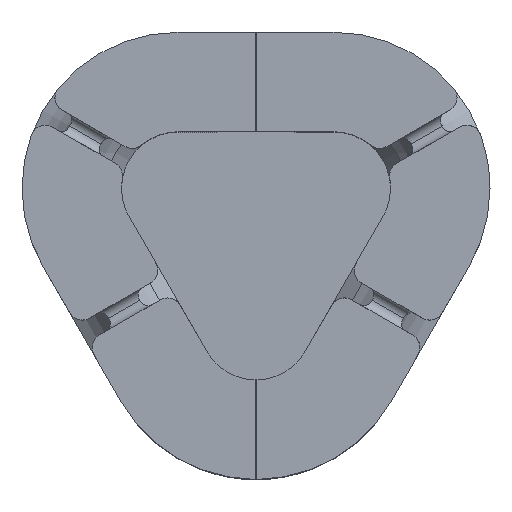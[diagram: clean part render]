
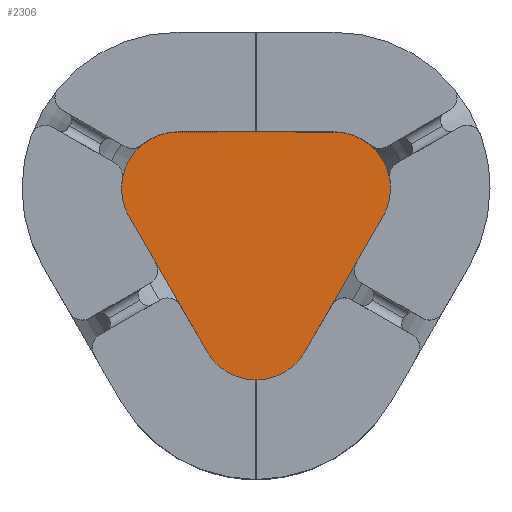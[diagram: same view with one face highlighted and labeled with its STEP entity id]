
A CAD part, top view. The second image highlights one B-rep face of the part: STEP entity #2306.
In plain terms, the highlighted planar face has unit normal (0, 0, 1).
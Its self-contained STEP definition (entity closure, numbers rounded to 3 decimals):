
#51 = EDGE_CURVE ( 'NONE', #1102, #5042, #4582, .T. ) ;
#81 = EDGE_CURVE ( 'NONE', #5867, #471, #2132, .T. ) ;
#120 = ORIENTED_EDGE ( 'NONE', *, *, #4597, .F. ) ;
#313 = LINE ( 'NONE', #3686, #4562 ) ;
#378 = VECTOR ( 'NONE', #2209, 1000. ) ;
#423 = VERTEX_POINT ( 'NONE', #5036 ) ;
#439 = VERTEX_POINT ( 'NONE', #3230 ) ;
#452 = DIRECTION ( 'NONE',  ( 0., 0., 1. ) ) ;
#471 = VERTEX_POINT ( 'NONE', #2802 ) ;
#608 = CIRCLE ( 'NONE', #4682, 5.8 ) ;
#665 = CIRCLE ( 'NONE', #1626, 5.8 ) ;
#715 = ORIENTED_EDGE ( 'NONE', *, *, #4731, .T. ) ;
#744 = ORIENTED_EDGE ( 'NONE', *, *, #1019, .T. ) ;
#774 = VERTEX_POINT ( 'NONE', #1186 ) ;
#852 = CARTESIAN_POINT ( 'NONE',  ( 4., -25.238, 0.4 ) ) ;
#878 = DIRECTION ( 'NONE',  ( -1., 0., 0. ) ) ;
#901 = VECTOR ( 'NONE', #2366, 1000. ) ;
#1019 = EDGE_CURVE ( 'NONE', #2930, #4856, #3285, .T. ) ;
#1078 = EDGE_LOOP ( 'NONE', ( #1434, #1226, #3736, #4436, #4128, #2282, #715, #744, #120, #3740, #3768, #5932, #2740, #2921, #2801 ) ) ;
#1102 = VERTEX_POINT ( 'NONE', #2440 ) ;
#1131 = EDGE_CURVE ( 'NONE', #4154, #4081, #4702, .T. ) ;
#1186 = CARTESIAN_POINT ( 'NONE',  ( 5.023, -12.138, 0.4 ) ) ;
#1199 = EDGE_CURVE ( 'NONE', #1989, #5867, #665, .T. ) ;
#1226 = ORIENTED_EDGE ( 'NONE', *, *, #4050, .T. ) ;
#1308 = LINE ( 'NONE', #5795, #5685 ) ;
#1311 = CIRCLE ( 'NONE', #4868, 5.8 ) ;
#1329 = VERTEX_POINT ( 'NONE', #1632 ) ;
#1434 = ORIENTED_EDGE ( 'NONE', *, *, #5620, .T. ) ;
#1440 = CIRCLE ( 'NONE', #5382, 5.8 ) ;
#1514 = CARTESIAN_POINT ( 'NONE',  ( 0., -9.238, 0.4 ) ) ;
#1605 = DIRECTION ( 'NONE',  ( 0., 1., 0. ) ) ;
#1626 = AXIS2_PLACEMENT_3D ( 'NONE', #5208, #2473, #5705 ) ;
#1632 = CARTESIAN_POINT ( 'NONE',  ( 4., 10.419, 0.4 ) ) ;
#1682 = LINE ( 'NONE', #3662, #901 ) ;
#1690 = VECTOR ( 'NONE', #4790, 1000. ) ;
#1780 = DIRECTION ( 'NONE',  ( 0., 1., 0. ) ) ;
#1789 = CARTESIAN_POINT ( 'NONE',  ( -13.023, 1.719, 0.4 ) ) ;
#1879 = LINE ( 'NONE', #4073, #378 ) ;
#1888 = EDGE_CURVE ( 'NONE', #3865, #439, #1879, .T. ) ;
#1986 = DIRECTION ( 'NONE',  ( 0., 0., 1. ) ) ;
#1989 = VERTEX_POINT ( 'NONE', #3656 ) ;
#2043 = EDGE_CURVE ( 'NONE', #1102, #3865, #1440, .T. ) ;
#2063 = VERTEX_POINT ( 'NONE', #4837 ) ;
#2069 = DIRECTION ( 'NONE',  ( -1., 0., 0. ) ) ;
#2132 = CIRCLE ( 'NONE', #2686, 5.8 ) ;
#2135 = EDGE_CURVE ( 'NONE', #439, #2063, #1311, .T. ) ;
#2209 = DIRECTION ( 'NONE',  ( 0.5, -0.866, 0. ) ) ;
#2279 = CARTESIAN_POINT ( 'NONE',  ( -8., 4.619, 0.4 ) ) ;
#2282 = ORIENTED_EDGE ( 'NONE', *, *, #3871, .F. ) ;
#2306 = ADVANCED_FACE ( 'NONE', ( #3626 ), #2653, .F. ) ;
#2366 = DIRECTION ( 'NONE',  ( 1., 0., 0. ) ) ;
#2440 = CARTESIAN_POINT ( 'NONE',  ( -8., 10.419, 0.4 ) ) ;
#2473 = DIRECTION ( 'NONE',  ( 0., 0., 1. ) ) ;
#2614 = VECTOR ( 'NONE', #1780, 1000. ) ;
#2653 = PLANE ( 'NONE',  #5168 ) ;
#2686 = AXIS2_PLACEMENT_3D ( 'NONE', #4335, #1986, #2069 ) ;
#2740 = ORIENTED_EDGE ( 'NONE', *, *, #2135, .T. ) ;
#2801 = ORIENTED_EDGE ( 'NONE', *, *, #1131, .F. ) ;
#2802 = CARTESIAN_POINT ( 'NONE',  ( 8., 10.419, 0.4 ) ) ;
#2824 = DIRECTION ( 'NONE',  ( 0.5, 0.866, 0. ) ) ;
#2921 = ORIENTED_EDGE ( 'NONE', *, *, #3617, .F. ) ;
#2930 = VERTEX_POINT ( 'NONE', #5473 ) ;
#2992 = CARTESIAN_POINT ( 'NONE',  ( 13.8, 4.619, 0.4 ) ) ;
#3115 = CARTESIAN_POINT ( 'NONE',  ( -8., 4.619, 0.4 ) ) ;
#3122 = DIRECTION ( 'NONE',  ( -1., 0., 0. ) ) ;
#3230 = CARTESIAN_POINT ( 'NONE',  ( -5.023, -12.138, 0.4 ) ) ;
#3285 = LINE ( 'NONE', #3703, #4422 ) ;
#3338 = DIRECTION ( 'NONE',  ( -1., 0., 0. ) ) ;
#3498 = CARTESIAN_POINT ( 'NONE',  ( -4., -25.238, 0.4 ) ) ;
#3617 = EDGE_CURVE ( 'NONE', #4081, #2063, #4159, .T. ) ;
#3626 = FACE_OUTER_BOUND ( 'NONE', #1078, .T. ) ;
#3656 = CARTESIAN_POINT ( 'NONE',  ( 13.023, 1.719, 0.4 ) ) ;
#3662 = CARTESIAN_POINT ( 'NONE',  ( -8., 10.419, 0.4 ) ) ;
#3676 = DIRECTION ( 'NONE',  ( -1., 0., 0. ) ) ;
#3686 = CARTESIAN_POINT ( 'NONE',  ( 5.023, -12.138, 0.4 ) ) ;
#3703 = CARTESIAN_POINT ( 'NONE',  ( -8., 20.619, 0.4 ) ) ;
#3713 = CARTESIAN_POINT ( 'NONE',  ( -4., 20.619, 0.4 ) ) ;
#3736 = ORIENTED_EDGE ( 'NONE', *, *, #5245, .T. ) ;
#3740 = ORIENTED_EDGE ( 'NONE', *, *, #51, .F. ) ;
#3768 = ORIENTED_EDGE ( 'NONE', *, *, #2043, .T. ) ;
#3839 = VECTOR ( 'NONE', #4519, 1000. ) ;
#3865 = VERTEX_POINT ( 'NONE', #1789 ) ;
#3871 = EDGE_CURVE ( 'NONE', #1329, #471, #1682, .T. ) ;
#3977 = LINE ( 'NONE', #5000, #2614 ) ;
#4050 = EDGE_CURVE ( 'NONE', #423, #774, #608, .T. ) ;
#4073 = CARTESIAN_POINT ( 'NONE',  ( -13.023, 1.719, 0.4 ) ) ;
#4081 = VERTEX_POINT ( 'NONE', #4369 ) ;
#4128 = ORIENTED_EDGE ( 'NONE', *, *, #81, .T. ) ;
#4154 = VERTEX_POINT ( 'NONE', #5343 ) ;
#4159 = LINE ( 'NONE', #3498, #5010 ) ;
#4335 = CARTESIAN_POINT ( 'NONE',  ( 8., 4.619, 0.4 ) ) ;
#4369 = CARTESIAN_POINT ( 'NONE',  ( -4., -24.73, 0.4 ) ) ;
#4422 = VECTOR ( 'NONE', #878, 1000. ) ;
#4436 = ORIENTED_EDGE ( 'NONE', *, *, #1199, .T. ) ;
#4469 = DIRECTION ( 'NONE',  ( 0., 1., 0. ) ) ;
#4474 = DIRECTION ( 'NONE',  ( 0., 0., 1. ) ) ;
#4519 = DIRECTION ( 'NONE',  ( 0., 1., 0. ) ) ;
#4562 = VECTOR ( 'NONE', #2824, 1000. ) ;
#4582 = LINE ( 'NONE', #5728, #1690 ) ;
#4597 = EDGE_CURVE ( 'NONE', #5042, #4856, #1308, .T. ) ;
#4682 = AXIS2_PLACEMENT_3D ( 'NONE', #1514, #4747, #5216 ) ;
#4702 = CIRCLE ( 'NONE', #5815, 16. ) ;
#4731 = EDGE_CURVE ( 'NONE', #1329, #2930, #5418, .T. ) ;
#4747 = DIRECTION ( 'NONE',  ( 0., 0., 1. ) ) ;
#4790 = DIRECTION ( 'NONE',  ( 1., 0., 0. ) ) ;
#4837 = CARTESIAN_POINT ( 'NONE',  ( -4., -13.438, 0.4 ) ) ;
#4856 = VERTEX_POINT ( 'NONE', #3713 ) ;
#4868 = AXIS2_PLACEMENT_3D ( 'NONE', #4955, #4474, #3122 ) ;
#4899 = DIRECTION ( 'NONE',  ( 0., 0., -1. ) ) ;
#4955 = CARTESIAN_POINT ( 'NONE',  ( 0., -9.238, 0.4 ) ) ;
#5000 = CARTESIAN_POINT ( 'NONE',  ( 4., -25.238, 0.4 ) ) ;
#5010 = VECTOR ( 'NONE', #1605, 1000. ) ;
#5036 = CARTESIAN_POINT ( 'NONE',  ( 4., -13.438, 0.4 ) ) ;
#5042 = VERTEX_POINT ( 'NONE', #5775 ) ;
#5168 = AXIS2_PLACEMENT_3D ( 'NONE', #3115, #4899, #5372 ) ;
#5208 = CARTESIAN_POINT ( 'NONE',  ( 8., 4.619, 0.4 ) ) ;
#5216 = DIRECTION ( 'NONE',  ( -1., 0., 0. ) ) ;
#5245 = EDGE_CURVE ( 'NONE', #774, #1989, #313, .T. ) ;
#5343 = CARTESIAN_POINT ( 'NONE',  ( 4., -24.73, 0.4 ) ) ;
#5372 = DIRECTION ( 'NONE',  ( -1., 0., 0. ) ) ;
#5382 = AXIS2_PLACEMENT_3D ( 'NONE', #2279, #452, #3676 ) ;
#5418 = LINE ( 'NONE', #852, #3839 ) ;
#5473 = CARTESIAN_POINT ( 'NONE',  ( 4., 20.619, 0.4 ) ) ;
#5593 = DIRECTION ( 'NONE',  ( 0., 0., -1. ) ) ;
#5620 = EDGE_CURVE ( 'NONE', #4154, #423, #3977, .T. ) ;
#5631 = CARTESIAN_POINT ( 'NONE',  ( 0., -9.238, 0.4 ) ) ;
#5685 = VECTOR ( 'NONE', #4469, 1000. ) ;
#5705 = DIRECTION ( 'NONE',  ( -1., 0., 0. ) ) ;
#5728 = CARTESIAN_POINT ( 'NONE',  ( -8., 10.419, 0.4 ) ) ;
#5775 = CARTESIAN_POINT ( 'NONE',  ( -4., 10.419, 0.4 ) ) ;
#5795 = CARTESIAN_POINT ( 'NONE',  ( -4., -25.238, 0.4 ) ) ;
#5815 = AXIS2_PLACEMENT_3D ( 'NONE', #5631, #5593, #3338 ) ;
#5867 = VERTEX_POINT ( 'NONE', #2992 ) ;
#5932 = ORIENTED_EDGE ( 'NONE', *, *, #1888, .T. ) ;
